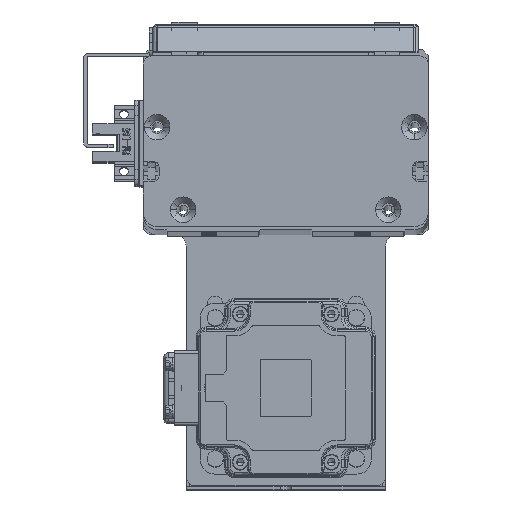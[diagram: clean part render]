
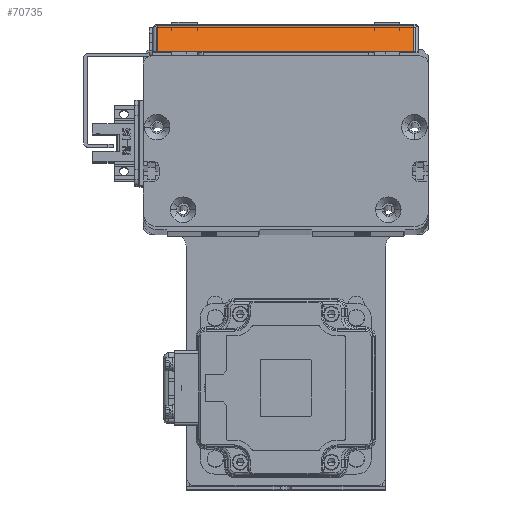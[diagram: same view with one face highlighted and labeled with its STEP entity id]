
A CAD part, top view. The second image highlights one B-rep face of the part: STEP entity #70735.
In plain terms, the highlighted planar face has unit normal (0, 0.707, 0.707) as drawn and (-0.707, 0, -0.707) by its records, which use the part's own axes.
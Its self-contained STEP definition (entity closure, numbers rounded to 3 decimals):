
#2331 = VERTEX_POINT ( 'NONE', #20803 ) ;
#2348 = DIRECTION ( 'NONE',  ( 0., -1., 0. ) ) ;
#6691 = LINE ( 'NONE', #69344, #19691 ) ;
#9264 = CARTESIAN_POINT ( 'NONE',  ( -66.5, 1.7, 4.1 ) ) ;
#9736 = DIRECTION ( 'NONE',  ( 0.707, 0., -0.707 ) ) ;
#13193 = EDGE_CURVE ( 'NONE', #2331, #63700, #6691, .T. ) ;
#15527 = VECTOR ( 'NONE', #9736, 1000. ) ;
#16283 = ORIENTED_EDGE ( 'NONE', *, *, #22939, .T. ) ;
#16299 = VERTEX_POINT ( 'NONE', #57425 ) ;
#17733 = DIRECTION ( 'NONE',  ( -0.707, 0., 0.707 ) ) ;
#19691 = VECTOR ( 'NONE', #69826, 1000. ) ;
#20803 = CARTESIAN_POINT ( 'NONE',  ( -57.298, 1.7, -5.102 ) ) ;
#20890 = LINE ( 'NONE', #52938, #51826 ) ;
#22939 = EDGE_CURVE ( 'NONE', #16299, #59600, #26725, .T. ) ;
#23989 = CARTESIAN_POINT ( 'NONE',  ( -68., 93.4, 5.6 ) ) ;
#26725 = LINE ( 'NONE', #64906, #15527 ) ;
#28507 = DIRECTION ( 'NONE',  ( 0., 1., 0. ) ) ;
#31613 = EDGE_LOOP ( 'NONE', ( #57450, #38230, #16283, #34149 ) ) ;
#34149 = ORIENTED_EDGE ( 'NONE', *, *, #49151, .T. ) ;
#38230 = ORIENTED_EDGE ( 'NONE', *, *, #69150, .T. ) ;
#39591 = CARTESIAN_POINT ( 'NONE',  ( -66.5, 93.4, 4.1 ) ) ;
#47259 = AXIS2_PLACEMENT_3D ( 'NONE', #23989, #57138, #17733 ) ;
#49151 = EDGE_CURVE ( 'NONE', #59600, #2331, #20890, .T. ) ;
#49414 = LINE ( 'NONE', #39591, #70959 ) ;
#51826 = VECTOR ( 'NONE', #2348, 1000. ) ;
#52938 = CARTESIAN_POINT ( 'NONE',  ( -57.298, 93.4, -5.102 ) ) ;
#57138 = DIRECTION ( 'NONE',  ( -0.707, 0., -0.707 ) ) ;
#57425 = CARTESIAN_POINT ( 'NONE',  ( -66.5, 91.7, 4.1 ) ) ;
#57450 = ORIENTED_EDGE ( 'NONE', *, *, #13193, .T. ) ;
#59600 = VERTEX_POINT ( 'NONE', #65792 ) ;
#61733 = PLANE ( 'NONE',  #47259 ) ;
#63700 = VERTEX_POINT ( 'NONE', #9264 ) ;
#64906 = CARTESIAN_POINT ( 'NONE',  ( -68., 91.7, 5.6 ) ) ;
#65792 = CARTESIAN_POINT ( 'NONE',  ( -57.298, 91.7, -5.102 ) ) ;
#66272 = FACE_OUTER_BOUND ( 'NONE', #31613, .T. ) ;
#69150 = EDGE_CURVE ( 'NONE', #63700, #16299, #49414, .T. ) ;
#69344 = CARTESIAN_POINT ( 'NONE',  ( -68., 1.7, 5.6 ) ) ;
#69826 = DIRECTION ( 'NONE',  ( -0.707, 0., 0.707 ) ) ;
#70735 = ADVANCED_FACE ( 'NONE', ( #66272 ), #61733, .T. ) ;
#70959 = VECTOR ( 'NONE', #28507, 1000. ) ;
